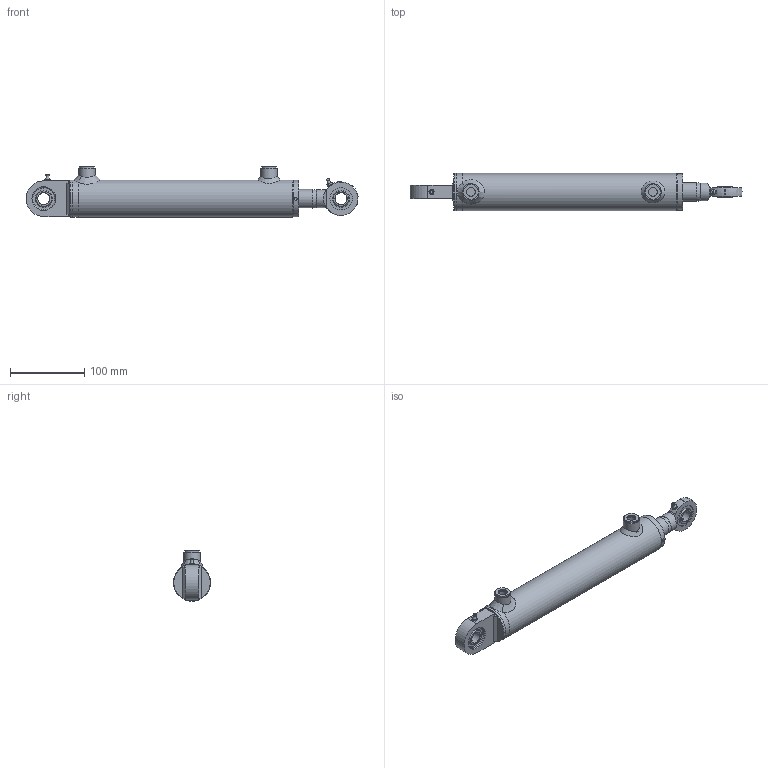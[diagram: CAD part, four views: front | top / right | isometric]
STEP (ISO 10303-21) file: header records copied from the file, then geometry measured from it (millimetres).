
FILE_DESCRIPTION( ( 'Unknown' ), '1' );
FILE_NAME( 'E:/LIBRERIA_3d/CILINDRI/HMB/HMB1250200.stp', 'Unknown', ( 'Unknown' ), ( 'Unknown' ), 'PSStep 17.0.49', 'Unknown', ' ' );
FILE_SCHEMA( ( 'AUTOMOTIVE_DESIGN { 1 0 10303 214 1 1 1 1 }' ) );
Length unit declared in the file: millimetre
Products named in the file (37): CT00040015; CG05004025; STL1500200-oa4; Saldatura d'angolo 1-oa2; FTM1500200-oa3; CBSC220400; CSTSF016C0; tsc16c_corpo; AN00006001; CSTSF016N0-oa7; CSTS016N_CORPO-oa5; CSAI002030; CSAI002030-oa6; HM01250200; Saldatura con preparazione 1-oa0; Saldatura d'angolo 1-oa1; CF00040050; CBS0400000; CDA0001415; APG0400000; SBL2510200; CSTS016C00; CGE0160000; CSTS016N00; Assem1; Saldatura d'angolo 1-oa8; Saldatura d'angolo 2-oa9
Assembly tree (28 placements, depth 4):
  Saldatura d'angolo 1-oa2
  Saldatura d'angolo 1-oa2
  Saldatura d'angolo 1-oa1
  Saldatura d'angolo 1-oa1
  Assem1
    HM01250200
      Saldatura con preparazione 1-oa0
      Saldatura con preparazione 1-oa0
      CF00040050
      CBS0400000
      CDA0001415
      APG0400000  x2
      SBL2510200
      CG05004025
        CG05004025
      CT00040015
        CT00040015
      STL1500200-oa4
        FTM1500200-oa3
        CBSC220400
    CSTS016C00
      CGE0160000
      CSTSF016C0
        tsc16c_corpo
        AN00006001
    CSTS016N00
      CGE0160000
      AN00006001
      CSTSF016N0-oa7
        CSTS016N_CORPO-oa5
        CSAI002030
        CSAI002030-oa6
Bounding box: 446.83 x 50 x 68 mm (x, y, z)
Volume: 502903.6 mm3; surface area: 184154.5 mm2
Topology: 30 solids, 30 shells, 325 faces, 678 edges, 426 vertices
Faces by surface type: plane 128, cylinder 79, cone 49, torus 42, bspline 18, sphere 9
Full cylindrical faces by diameter (mm): 2 x4, 2.4 x1, 3 x1, 3.25 x1, 4 x4, 4.25 x1, 5 x1, 6 x2, 7 x2, 11.445 x2, 12 x2, 13.1 x2, 14 x2, 15 x3, 16 x2, 19.5 x1, 20 x2, 22 x3, 24 x1, 25 x4, 27 x1, 28 x1, 30 x9, 33 x1, 33.6 x1, 35 x1, 35.4 x2, 38.5 x2, 39.9 x1, 40 x1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
Entity records: 12754 total; most frequent: CARTESIAN_POINT 4531, DIRECTION 1240, ORIENTED_EDGE 804, AXIS2_PLACEMENT_3D 560, EDGE_LOOP 525, FACE_OUTER_BOUND 418, EDGE_CURVE 402, VERTEX_POINT 343
